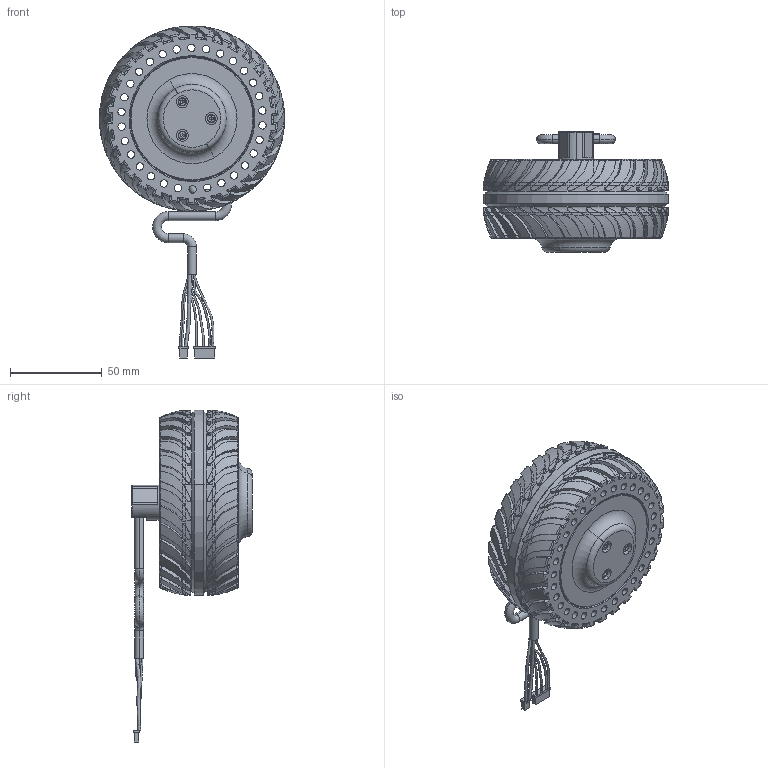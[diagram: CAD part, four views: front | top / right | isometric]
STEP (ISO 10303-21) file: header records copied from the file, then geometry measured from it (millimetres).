
FILE_DESCRIPTION (( 'STEP AP203' ), '1' );
FILE_NAME ('CP.BM.000021 M0601C_411萇儂杅耀芞.STEP', '2023-04-07T07:51:38', ( '' ), ( '' ), 'SwSTEP 2.0', 'SolidWorks 2021', '' );
FILE_SCHEMA (( 'CONFIG_CONTROL_DESIGN' ));
Length unit declared in the file: millimetre
Products named in the file (1): CP.BM.000021 M0601C_411萇儂杅耀芞
Bounding box: 100.69 x 65.5 x 180.53 mm (x, y, z)
Volume: 310748.8 mm3; surface area: 64671 mm2
Topology: 2 solids, 14 shells, 2335 faces, 6164 edges, 3924 vertices
Faces by surface type: bspline 889, plane 539, torus 330, cylinder 279, cone 170, sphere 128
Entity records: 193296 total; most frequent: CARTESIAN_POINT 143888, ORIENTED_EDGE 12300, DIRECTION 6980, EDGE_CURVE 6150, VERTEX_POINT 3924, B_SPLINE_CURVE_WITH_KNOTS 3256, AXIS2_PLACEMENT_3D 2641, EDGE_LOOP 2506
